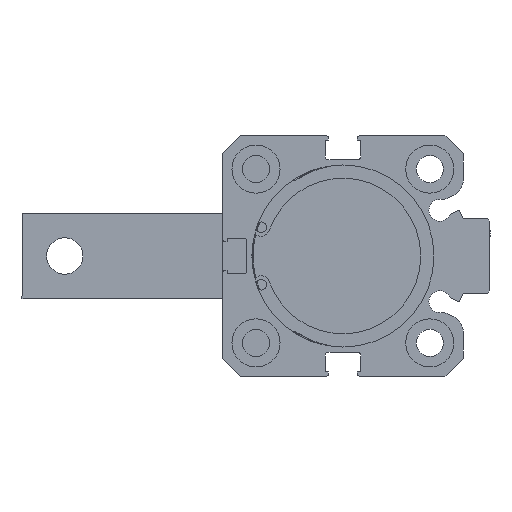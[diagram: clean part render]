
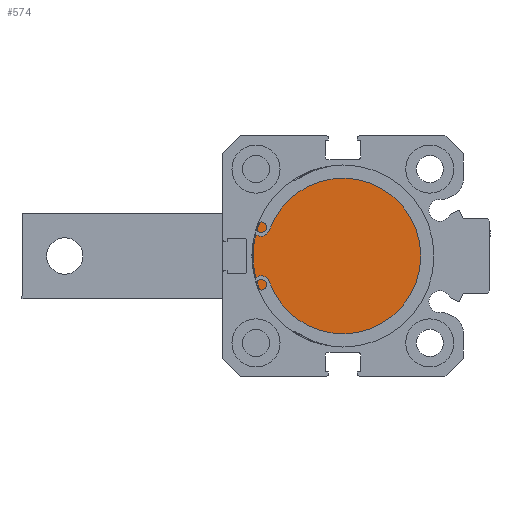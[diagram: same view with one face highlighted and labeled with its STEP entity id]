
A CAD part, front view. The second image highlights one B-rep face of the part: STEP entity #574.
In plain terms, the highlighted planar face has unit normal (0, -1, 0) as drawn and (1, 0, 0) by its records, which use the part's own axes.
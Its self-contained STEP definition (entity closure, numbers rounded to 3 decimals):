
#574 = ADVANCED_FACE ( 'NONE', ( #4985 ), #20704, .F. ) ;
#2429 = ORIENTED_EDGE ( 'NONE', *, *, #12433, .F. ) ;
#4985 = FACE_OUTER_BOUND ( 'NONE', #7653, .T. ) ;
#5859 = CARTESIAN_POINT ( 'NONE',  ( 6.75, 33.6, -16.8 ) ) ;
#5985 = CARTESIAN_POINT ( 'NONE',  ( 6.75, 0., 16.8 ) ) ;
#6796 = CARTESIAN_POINT ( 'NONE',  ( 6.75, -33.6, -16.8 ) ) ;
#7653 = EDGE_LOOP ( 'NONE', ( #13882, #2429 ) ) ;
#9677 = CARTESIAN_POINT ( 'NONE',  ( 6.75, 33.6, 16.8 ) ) ;
#11065 = AXIS2_PLACEMENT_3D ( 'NONE', #13208, #22482, #14742 ) ;
#12131 = CARTESIAN_POINT ( 'NONE',  ( 6.75, 0., -16.8 ) ) ;
#12253 = CARTESIAN_POINT ( 'NONE',  ( 6.75, 0., 16.8 ) ) ;
#12433 = EDGE_CURVE ( 'NONE', #17803, #14457, #17745, .T. ) ;
#13208 = CARTESIAN_POINT ( 'NONE',  ( 6.75, 17., 0. ) ) ;
#13882 = ORIENTED_EDGE ( 'NONE', *, *, #19793, .F. ) ;
#14457 = VERTEX_POINT ( 'NONE', #22223 ) ;
#14742 = DIRECTION ( 'NONE',  ( 0., 0., 1. ) ) ;
#15661 =( BOUNDED_CURVE ( )  B_SPLINE_CURVE ( 3, ( #5985, #9677, #5859, #23496 ),
 .UNSPECIFIED., .F., .F. ) 
 B_SPLINE_CURVE_WITH_KNOTS ( ( 4, 4 ),
 ( 0., 1. ),
 .UNSPECIFIED. ) 
 CURVE ( )  GEOMETRIC_REPRESENTATION_ITEM ( )  RATIONAL_B_SPLINE_CURVE ( ( 1., 0.333, 0.333, 1. ) ) 
 REPRESENTATION_ITEM ( '' )  );
#17745 =( BOUNDED_CURVE ( )  B_SPLINE_CURVE ( 3, ( #12131, #6796, #22014, #12253 ),
 .UNSPECIFIED., .F., .F. ) 
 B_SPLINE_CURVE_WITH_KNOTS ( ( 4, 4 ),
 ( 0., 1. ),
 .UNSPECIFIED. ) 
 CURVE ( )  GEOMETRIC_REPRESENTATION_ITEM ( )  RATIONAL_B_SPLINE_CURVE ( ( 1., 0.333, 0.333, 1. ) ) 
 REPRESENTATION_ITEM ( '' )  );
#17803 = VERTEX_POINT ( 'NONE', #22423 ) ;
#19793 = EDGE_CURVE ( 'NONE', #14457, #17803, #15661, .T. ) ;
#20704 = PLANE ( 'NONE',  #11065 ) ;
#22014 = CARTESIAN_POINT ( 'NONE',  ( 6.75, -33.6, 16.8 ) ) ;
#22223 = CARTESIAN_POINT ( 'NONE',  ( 6.75, 0., 16.8 ) ) ;
#22423 = CARTESIAN_POINT ( 'NONE',  ( 6.75, 0., -16.8 ) ) ;
#22482 = DIRECTION ( 'NONE',  ( -1., 0., 0. ) ) ;
#23496 = CARTESIAN_POINT ( 'NONE',  ( 6.75, 0., -16.8 ) ) ;
